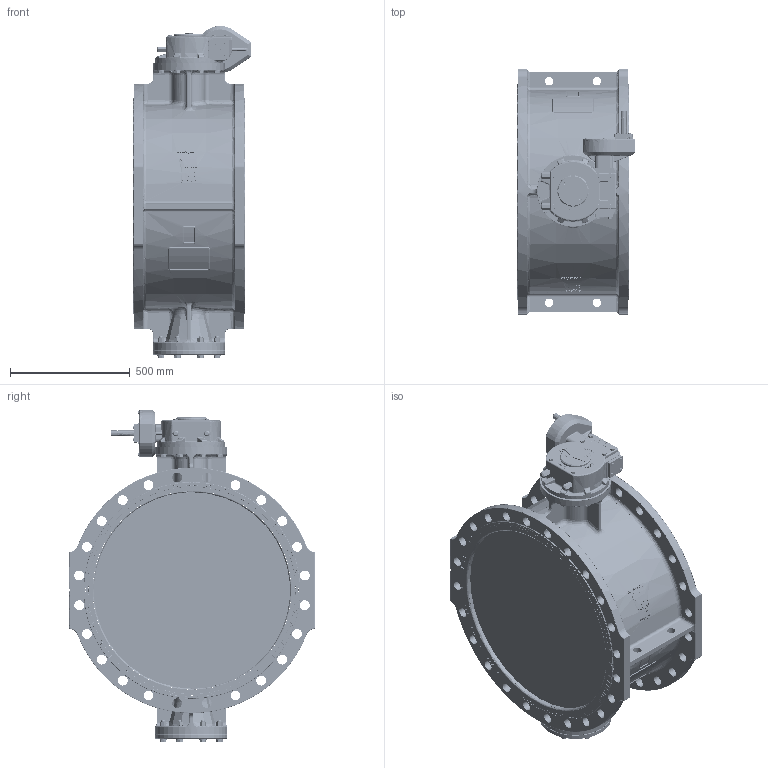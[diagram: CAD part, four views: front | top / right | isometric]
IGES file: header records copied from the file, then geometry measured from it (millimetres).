
Start section: SolidWorks IGES file using analytic representation for surfaces
Global section: file name: C:\Documents and Settings\Paji\Desktop\756080011400501\Part6.IGS; native system: SolidWorks 2008; preprocessor: SolidWorks 2008; author: paji; date: 100929.111527; units: millimetre
Bounding box: 495 x 1025 x 1386 mm (x, y, z)
Surface area: 4626456.9 mm2 (no closed solid volume)
Topology: 0 solids, 0 shells, 3062 faces, 48554 edges, 48502 vertices
Faces by surface type: bspline 1987, revolution 1075
